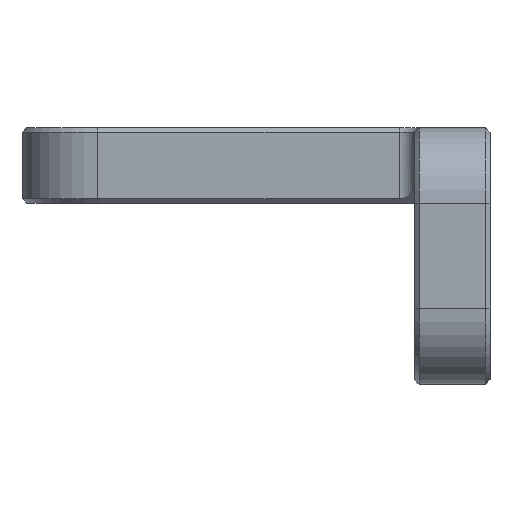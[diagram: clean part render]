
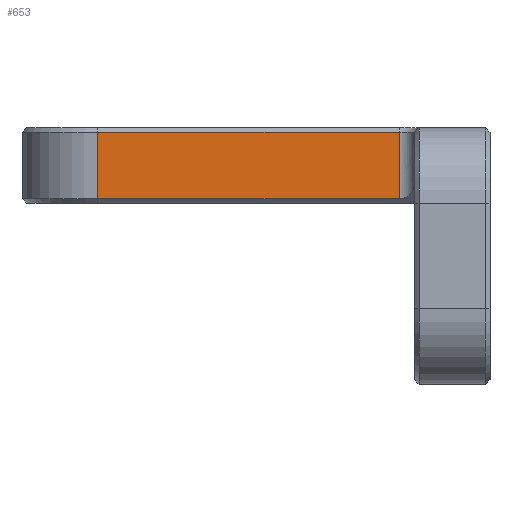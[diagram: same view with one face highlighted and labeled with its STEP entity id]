
A CAD part, front view. The second image highlights one B-rep face of the part: STEP entity #653.
In plain terms, the highlighted planar face has unit normal (0, -1, 0).
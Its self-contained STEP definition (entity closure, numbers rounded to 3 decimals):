
#517 = LINE ( 'NONE', #2267, #1840 ) ;
#653 = ADVANCED_FACE ( 'NONE', ( #1230 ), #5126, .F. ) ;
#690 = VERTEX_POINT ( 'NONE', #3608 ) ;
#757 = EDGE_CURVE ( 'NONE', #690, #4679, #1912, .T. ) ;
#790 = VECTOR ( 'NONE', #6374, 1000. ) ;
#991 = ORIENTED_EDGE ( 'NONE', *, *, #1439, .T. ) ;
#1105 = ORIENTED_EDGE ( 'NONE', *, *, #757, .T. ) ;
#1114 = DIRECTION ( 'NONE',  ( -1., 0., 0. ) ) ;
#1230 = FACE_OUTER_BOUND ( 'NONE', #5141, .T. ) ;
#1439 = EDGE_CURVE ( 'NONE', #1476, #4973, #2102, .T. ) ;
#1476 = VERTEX_POINT ( 'NONE', #2500 ) ;
#1554 = VECTOR ( 'NONE', #5893, 1000. ) ;
#1840 = VECTOR ( 'NONE', #1114, 1000. ) ;
#1912 = LINE ( 'NONE', #6969, #790 ) ;
#2102 = LINE ( 'NONE', #5245, #1554 ) ;
#2104 = EDGE_CURVE ( 'NONE', #4973, #690, #6995, .T. ) ;
#2267 = CARTESIAN_POINT ( 'NONE',  ( -8., -20., 4.7 ) ) ;
#2431 = CARTESIAN_POINT ( 'NONE',  ( -13., -20., 5. ) ) ;
#2500 = CARTESIAN_POINT ( 'NONE',  ( -8., -20., 4.7 ) ) ;
#2802 = CARTESIAN_POINT ( 'NONE',  ( -8., -20., 0.3 ) ) ;
#3427 = DIRECTION ( 'NONE',  ( 0., 1., 0. ) ) ;
#3608 = CARTESIAN_POINT ( 'NONE',  ( 12., -20., 0.3 ) ) ;
#3667 = DIRECTION ( 'NONE',  ( 1., 0., 0. ) ) ;
#3738 = CARTESIAN_POINT ( 'NONE',  ( -13., -20., 0.3 ) ) ;
#4018 = AXIS2_PLACEMENT_3D ( 'NONE', #2431, #3427, #5093 ) ;
#4520 = CARTESIAN_POINT ( 'NONE',  ( 12., -20., 4.7 ) ) ;
#4679 = VERTEX_POINT ( 'NONE', #4520 ) ;
#4817 = ORIENTED_EDGE ( 'NONE', *, *, #2104, .T. ) ;
#4973 = VERTEX_POINT ( 'NONE', #2802 ) ;
#5093 = DIRECTION ( 'NONE',  ( 0., 0., 1. ) ) ;
#5126 = PLANE ( 'NONE',  #4018 ) ;
#5141 = EDGE_LOOP ( 'NONE', ( #1105, #7101, #991, #4817 ) ) ;
#5245 = CARTESIAN_POINT ( 'NONE',  ( -8., -20., 5. ) ) ;
#5893 = DIRECTION ( 'NONE',  ( 0., 0., -1. ) ) ;
#6250 = EDGE_CURVE ( 'NONE', #4679, #1476, #517, .T. ) ;
#6374 = DIRECTION ( 'NONE',  ( 0., 0., 1. ) ) ;
#6969 = CARTESIAN_POINT ( 'NONE',  ( 12., -20., 5. ) ) ;
#6995 = LINE ( 'NONE', #3738, #7023 ) ;
#7023 = VECTOR ( 'NONE', #3667, 1000. ) ;
#7101 = ORIENTED_EDGE ( 'NONE', *, *, #6250, .T. ) ;
